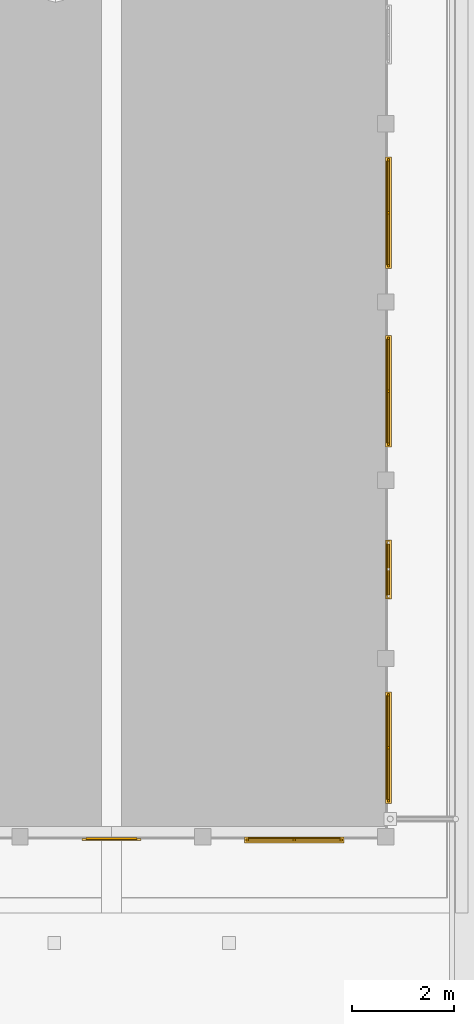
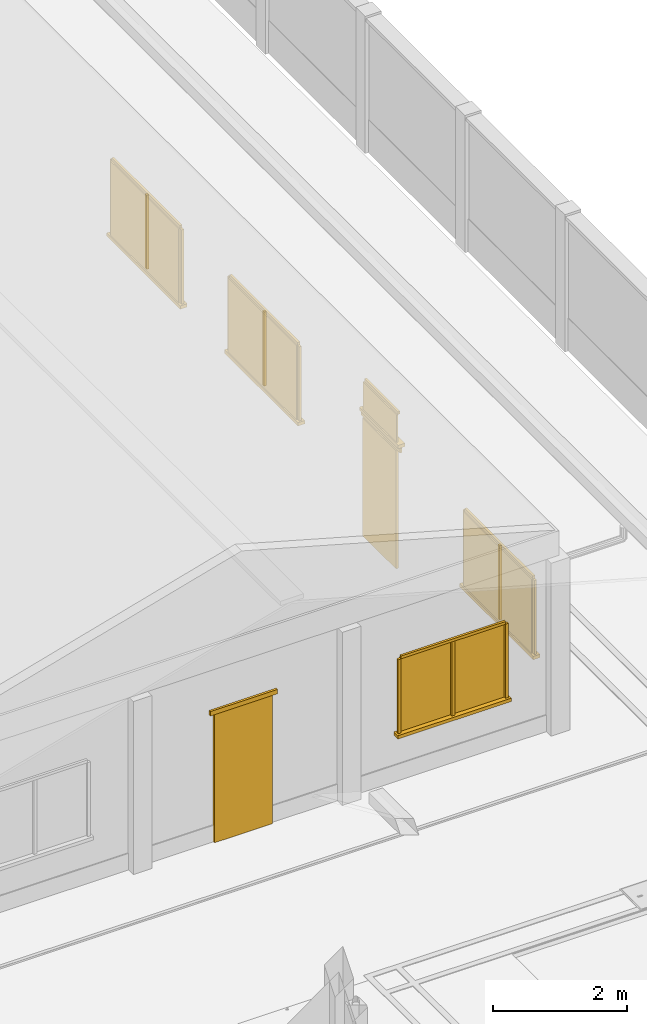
# One storey, part 71 of 177: 27 windows, 4 doors.
"""IFC4 building model written with IfcOpenShell, lengths in metres."""

from ifc_helpers import new_model, si_unit, origin, origin_with_axes, place, context, subcontext, project, spatial, triangles, element, save


model = new_model("IFC4")

# Units and contexts
model_context = context("Model", 3, precision=1e-05, world=origin_with_axes())
body_context = subcontext(model_context, "Body", "Model", "MODEL_VIEW")
ifc_project = project(units=[si_unit("LENGTHUNIT", "METRE"), si_unit("AREAUNIT", "SQUARE_METRE"), si_unit("VOLUMEUNIT", "CUBIC_METRE"), si_unit("PLANEANGLEUNIT", "RADIAN")], contexts=[model_context])

# Site, building, storey
site_placement = place(None, origin_with_axes())
site = spatial("IfcSite", under=ifc_project, at=site_placement, Name="Predio Los Mangos - Morales, San Martín", CompositionType="ELEMENT")
building_placement = place(site_placement, origin())
building = spatial("IfcBuilding", under=site, at=building_placement, Name="Hogar de Refugio Temporal", CompositionType="ELEMENT")
storey_placement = place(building_placement, origin())
storey = spatial("IfcBuildingStorey", under=building, at=storey_placement, Name="NIVEL 1 (NPT +0.00)", CompositionType="ELEMENT", Elevation=0.0)

# Doors
door_1_placement = place(storey_placement, origin())
element("IfcDoor", 1, at=door_1_placement, inside=storey, Name="E-07_pp", ObjectType="Puerta", PredefinedType="DOOR", context=body_context, shape_type="Tessellation", body=[
    triangles([(60.6, 92.65, 0.15), (61.6, 92.65, 0.15), (61.6, 92.69, 0.15), (60.6, 92.69, 0.15), (60.6, 92.65, 2.5), (61.6, 92.65, 2.5), (61.6, 92.69, 2.5), (60.6, 92.69, 2.5)], [[1, 4, 3], [1, 3, 2], [5, 6, 7], [5, 7, 8], [1, 2, 6], [1, 6, 5], [2, 3, 7], [2, 7, 6], [3, 4, 8], [3, 8, 7], [4, 1, 5], [4, 5, 8]]),
])
door_2_placement = place(storey_placement, origin())
element("IfcDoor", 2, at=door_2_placement, inside=storey, Name="E-07_pp_marco", ObjectType="Puerta", PredefinedType="DOOR", context=body_context, shape_type="Tessellation", body=[
    triangles([(60.52, 92.63, 2.5), (61.68, 92.63, 2.5), (61.68, 92.67, 2.5), (60.52, 92.67, 2.5), (60.52, 92.63, 2.58), (61.68, 92.63, 2.58), (61.68, 92.67, 2.58), (60.52, 92.67, 2.58)], [[1, 4, 3], [1, 3, 2], [5, 6, 7], [5, 7, 8], [1, 2, 6], [1, 6, 5], [2, 3, 7], [2, 7, 6], [3, 4, 8], [3, 8, 7], [4, 1, 5], [4, 5, 8]]),
])

# Windows
window_1_placement = place(storey_placement, origin())
element("IfcWindow", 3, at=window_1_placement, inside=storey, Name="E-07_vg2_vid", ObjectType="Ventana", PredefinedType="WINDOW", context=body_context, shape_type="Tessellation", body=[
    triangles([(63.8, 92.66, 1.05), (65.6, 92.66, 1.05), (65.6, 92.68, 1.05), (63.8, 92.68, 1.05), (63.8, 92.66, 2.4), (65.6, 92.66, 2.4), (65.6, 92.68, 2.4), (63.8, 92.68, 2.4)], [[1, 4, 3], [1, 3, 2], [5, 6, 7], [5, 7, 8], [1, 2, 6], [1, 6, 5], [2, 3, 7], [2, 7, 6], [3, 4, 8], [3, 8, 7], [4, 1, 5], [4, 5, 8]]),
])
window_2_placement = place(storey_placement, origin())
element("IfcWindow", 4, at=window_2_placement, inside=storey, Name="E-07_vg2_m", ObjectType="Ventana", PredefinedType="WINDOW", context=body_context, shape_type="Tessellation", body=[
    triangles([(63.75, 92.62, 1.05), (63.8, 92.62, 1.05), (63.8, 92.66, 1.05), (63.75, 92.66, 1.05), (63.75, 92.62, 2.4), (63.8, 92.62, 2.4), (63.8, 92.66, 2.4), (63.75, 92.66, 2.4)], [[1, 4, 3], [1, 3, 2], [5, 6, 7], [5, 7, 8], [1, 2, 6], [1, 6, 5], [2, 3, 7], [2, 7, 6], [3, 4, 8], [3, 8, 7], [4, 1, 5], [4, 5, 8]]),
])
window_3_placement = place(storey_placement, origin())
element("IfcWindow", 5, at=window_3_placement, inside=storey, Name="E-07_vg2_m", ObjectType="Ventana", PredefinedType="WINDOW", context=body_context, shape_type="Tessellation", body=[
    triangles([(65.6, 92.62, 1.05), (65.65, 92.62, 1.05), (65.65, 92.66, 1.05), (65.6, 92.66, 1.05), (65.6, 92.62, 2.4), (65.65, 92.62, 2.4), (65.65, 92.66, 2.4), (65.6, 92.66, 2.4)], [[1, 4, 3], [1, 3, 2], [5, 6, 7], [5, 7, 8], [1, 2, 6], [1, 6, 5], [2, 3, 7], [2, 7, 6], [3, 4, 8], [3, 8, 7], [4, 1, 5], [4, 5, 8]]),
])
window_4_placement = place(storey_placement, origin())
element("IfcWindow", 6, at=window_4_placement, inside=storey, Name="E-07_vg2_m", ObjectType="Ventana", PredefinedType="WINDOW", context=body_context, shape_type="Tessellation", body=[
    triangles([(63.8, 92.62, 2.4), (65.6, 92.62, 2.4), (65.6, 92.66, 2.4), (63.8, 92.66, 2.4), (63.8, 92.62, 2.45), (65.6, 92.62, 2.45), (65.6, 92.66, 2.45), (63.8, 92.66, 2.45)], [[1, 4, 3], [1, 3, 2], [5, 6, 7], [5, 7, 8], [1, 2, 6], [1, 6, 5], [2, 3, 7], [2, 7, 6], [3, 4, 8], [3, 8, 7], [4, 1, 5], [4, 5, 8]]),
])
window_5_placement = place(storey_placement, origin())
element("IfcWindow", 7, at=window_5_placement, inside=storey, Name="E-07_vg2_m", ObjectType="Ventana", PredefinedType="WINDOW", context=body_context, shape_type="Tessellation", body=[
    triangles([(64.675, 92.62, 1.05), (64.725, 92.62, 1.05), (64.725, 92.66, 1.05), (64.675, 92.66, 1.05), (64.675, 92.62, 2.4), (64.725, 92.62, 2.4), (64.725, 92.66, 2.4), (64.675, 92.66, 2.4)], [[1, 4, 3], [1, 3, 2], [5, 6, 7], [5, 7, 8], [1, 2, 6], [1, 6, 5], [2, 3, 7], [2, 7, 6], [3, 4, 8], [3, 8, 7], [4, 1, 5], [4, 5, 8]]),
])
window_6_placement = place(storey_placement, origin())
element("IfcWindow", 8, at=window_6_placement, inside=storey, Name="E-07_vg2_alf", ObjectType="Ventana", PredefinedType="WINDOW", context=body_context, shape_type="Tessellation", body=[
    triangles([(63.72, 92.7, 0.99), (65.68, 92.7, 0.99), (65.68, 92.58, 0.99), (63.72, 92.58, 0.99), (63.72, 92.7, 1.05), (65.68, 92.7, 1.05), (65.68, 92.58, 1.05), (63.72, 92.58, 1.05)], [[1, 4, 3], [1, 3, 2], [5, 6, 7], [5, 7, 8], [1, 2, 6], [1, 6, 5], [2, 3, 7], [2, 7, 6], [3, 4, 8], [3, 8, 7], [4, 1, 5], [4, 5, 8]]),
])
window_7_placement = place(storey_placement, origin())
element("IfcWindow", 9, at=window_7_placement, inside=storey, Name="E-07_v0_vid", ObjectType="Ventana", PredefinedType="WINDOW", context=body_context, shape_type="Tessellation", body=[
    triangles([(66.52, 93.4371, 1.05), (66.54, 93.4371, 1.05), (66.54, 95.4729, 1.05), (66.52, 95.4729, 1.05), (66.52, 93.4371, 2.4), (66.54, 93.4371, 2.4), (66.54, 95.4729, 2.4), (66.52, 95.4729, 2.4)], [[1, 4, 3], [1, 3, 2], [5, 6, 7], [5, 7, 8], [1, 2, 6], [1, 6, 5], [2, 3, 7], [2, 7, 6], [3, 4, 8], [3, 8, 7], [4, 1, 5], [4, 5, 8]]),
])
window_8_placement = place(storey_placement, origin())
element("IfcWindow", 10, at=window_8_placement, inside=storey, Name="E-07_v0_m", ObjectType="Ventana", PredefinedType="WINDOW", context=body_context, shape_type="Tessellation", body=[
    triangles([(66.54, 93.3871, 1.05), (66.58, 93.3871, 1.05), (66.58, 93.4371, 1.05), (66.54, 93.4371, 1.05), (66.54, 93.3871, 2.4), (66.58, 93.3871, 2.4), (66.58, 93.4371, 2.4), (66.54, 93.4371, 2.4)], [[1, 4, 3], [1, 3, 2], [5, 6, 7], [5, 7, 8], [1, 2, 6], [1, 6, 5], [2, 3, 7], [2, 7, 6], [3, 4, 8], [3, 8, 7], [4, 1, 5], [4, 5, 8]]),
])
window_9_placement = place(storey_placement, origin())
element("IfcWindow", 11, at=window_9_placement, inside=storey, Name="E-07_v0_m", ObjectType="Ventana", PredefinedType="WINDOW", context=body_context, shape_type="Tessellation", body=[
    triangles([(66.54, 95.4729, 1.05), (66.58, 95.4729, 1.05), (66.58, 95.5229, 1.05), (66.54, 95.5229, 1.05), (66.54, 95.4729, 2.4), (66.58, 95.4729, 2.4), (66.58, 95.5229, 2.4), (66.54, 95.5229, 2.4)], [[1, 4, 3], [1, 3, 2], [5, 6, 7], [5, 7, 8], [1, 2, 6], [1, 6, 5], [2, 3, 7], [2, 7, 6], [3, 4, 8], [3, 8, 7], [4, 1, 5], [4, 5, 8]]),
])
window_10_placement = place(storey_placement, origin())
element("IfcWindow", 12, at=window_10_placement, inside=storey, Name="E-07_v0_m", ObjectType="Ventana", PredefinedType="WINDOW", context=body_context, shape_type="Tessellation", body=[
    triangles([(66.54, 93.4371, 2.4), (66.58, 93.4371, 2.4), (66.58, 95.4729, 2.4), (66.54, 95.4729, 2.4), (66.54, 93.4371, 2.45), (66.58, 93.4371, 2.45), (66.58, 95.4729, 2.45), (66.54, 95.4729, 2.45)], [[1, 4, 3], [1, 3, 2], [5, 6, 7], [5, 7, 8], [1, 2, 6], [1, 6, 5], [2, 3, 7], [2, 7, 6], [3, 4, 8], [3, 8, 7], [4, 1, 5], [4, 5, 8]]),
])
window_11_placement = place(storey_placement, origin())
element("IfcWindow", 13, at=window_11_placement, inside=storey, Name="E-07_v0_m", ObjectType="Ventana", PredefinedType="WINDOW", context=body_context, shape_type="Tessellation", body=[
    triangles([(66.54, 94.43, 1.05), (66.58, 94.43, 1.05), (66.58, 94.48, 1.05), (66.54, 94.48, 1.05), (66.54, 94.43, 2.4), (66.58, 94.43, 2.4), (66.58, 94.48, 2.4), (66.54, 94.48, 2.4)], [[1, 4, 3], [1, 3, 2], [5, 6, 7], [5, 7, 8], [1, 2, 6], [1, 6, 5], [2, 3, 7], [2, 7, 6], [3, 4, 8], [3, 8, 7], [4, 1, 5], [4, 5, 8]]),
])
window_12_placement = place(storey_placement, origin())
element("IfcWindow", 14, at=window_12_placement, inside=storey, Name="E-07_v0_alf", ObjectType="Ventana", PredefinedType="WINDOW", context=body_context, shape_type="Tessellation", body=[
    triangles([(66.5, 93.3571, 0.99), (66.62, 93.3571, 0.99), (66.62, 95.5529, 0.99), (66.5, 95.5529, 0.99), (66.5, 93.3571, 1.05), (66.62, 93.3571, 1.05), (66.62, 95.5529, 1.05), (66.5, 95.5529, 1.05)], [[1, 4, 3], [1, 3, 2], [5, 6, 7], [5, 7, 8], [1, 2, 6], [1, 6, 5], [2, 3, 7], [2, 7, 6], [3, 4, 8], [3, 8, 7], [4, 1, 5], [4, 5, 8]]),
])

# Doors
door_3_placement = place(storey_placement, origin())
element("IfcDoor", 15, at=door_3_placement, inside=storey, Name="E-07_p1", ObjectType="Puerta", PredefinedType="DOOR", context=body_context, shape_type="Tessellation", body=[
    triangles([(66.51, 97.465, 0.15), (66.55, 97.465, 0.15), (66.55, 98.465, 0.15), (66.51, 98.465, 0.15), (66.51, 97.465, 2.3), (66.55, 97.465, 2.3), (66.55, 98.465, 2.3), (66.51, 98.465, 2.3)], [[1, 4, 3], [1, 3, 2], [5, 6, 7], [5, 7, 8], [1, 2, 6], [1, 6, 5], [2, 3, 7], [2, 7, 6], [3, 4, 8], [3, 8, 7], [4, 1, 5], [4, 5, 8]]),
])
door_4_placement = place(storey_placement, origin())
element("IfcDoor", 16, at=door_4_placement, inside=storey, Name="E-07_p1_marco", ObjectType="Puerta", PredefinedType="DOOR", context=body_context, shape_type="Tessellation", body=[
    triangles([(66.53, 97.385, 2.3), (66.57, 97.385, 2.3), (66.57, 98.545, 2.3), (66.53, 98.545, 2.3), (66.53, 97.385, 2.38), (66.57, 97.385, 2.38), (66.57, 98.545, 2.38), (66.53, 98.545, 2.38)], [[1, 4, 3], [1, 3, 2], [5, 6, 7], [5, 7, 8], [1, 2, 6], [1, 6, 5], [2, 3, 7], [2, 7, 6], [3, 4, 8], [3, 8, 7], [4, 1, 5], [4, 5, 8]]),
])

# Windows
window_13_placement = place(storey_placement, origin())
element("IfcWindow", 17, at=window_13_placement, inside=storey, Name="E-07_vt1_vid", ObjectType="Ventana", PredefinedType="WINDOW", context=body_context, shape_type="Tessellation", body=[
    triangles([(66.52, 97.465, 2.45), (66.54, 97.465, 2.45), (66.54, 98.465, 2.45), (66.52, 98.465, 2.45), (66.52, 97.465, 2.95), (66.54, 97.465, 2.95), (66.54, 98.465, 2.95), (66.52, 98.465, 2.95)], [[1, 4, 3], [1, 3, 2], [5, 6, 7], [5, 7, 8], [1, 2, 6], [1, 6, 5], [2, 3, 7], [2, 7, 6], [3, 4, 8], [3, 8, 7], [4, 1, 5], [4, 5, 8]]),
])
window_14_placement = place(storey_placement, origin())
element("IfcWindow", 18, at=window_14_placement, inside=storey, Name="E-07_vt1_m", ObjectType="Ventana", PredefinedType="WINDOW", context=body_context, shape_type="Tessellation", body=[
    triangles([(66.54, 97.465, 2.95), (66.58, 97.465, 2.95), (66.58, 98.465, 2.95), (66.54, 98.465, 2.95), (66.54, 97.465, 3.0), (66.58, 97.465, 3.0), (66.58, 98.465, 3.0), (66.54, 98.465, 3.0)], [[1, 4, 3], [1, 3, 2], [5, 6, 7], [5, 7, 8], [1, 2, 6], [1, 6, 5], [2, 3, 7], [2, 7, 6], [3, 4, 8], [3, 8, 7], [4, 1, 5], [4, 5, 8]]),
])
window_15_placement = place(storey_placement, origin())
element("IfcWindow", 19, at=window_15_placement, inside=storey, Name="E-07_vt1_alf", ObjectType="Ventana", PredefinedType="WINDOW", context=body_context, shape_type="Tessellation", body=[
    triangles([(66.5, 97.385, 2.39), (66.62, 97.385, 2.39), (66.62, 98.545, 2.39), (66.5, 98.545, 2.39), (66.5, 97.385, 2.45), (66.62, 97.385, 2.45), (66.62, 98.545, 2.45), (66.5, 98.545, 2.45)], [[1, 4, 3], [1, 3, 2], [5, 6, 7], [5, 7, 8], [1, 2, 6], [1, 6, 5], [2, 3, 7], [2, 7, 6], [3, 4, 8], [3, 8, 7], [4, 1, 5], [4, 5, 8]]),
])
window_16_placement = place(storey_placement, origin())
element("IfcWindow", 20, at=window_16_placement, inside=storey, Name="E-07_v2_vid", ObjectType="Ventana", PredefinedType="WINDOW", context=body_context, shape_type="Tessellation", body=[
    triangles([(66.52, 100.4571, 1.05), (66.54, 100.4571, 1.05), (66.54, 102.4929, 1.05), (66.52, 102.4929, 1.05), (66.52, 100.4571, 2.4), (66.54, 100.4571, 2.4), (66.54, 102.4929, 2.4), (66.52, 102.4929, 2.4)], [[1, 4, 3], [1, 3, 2], [5, 6, 7], [5, 7, 8], [1, 2, 6], [1, 6, 5], [2, 3, 7], [2, 7, 6], [3, 4, 8], [3, 8, 7], [4, 1, 5], [4, 5, 8]]),
])
window_17_placement = place(storey_placement, origin())
element("IfcWindow", 21, at=window_17_placement, inside=storey, Name="E-07_v2_m", ObjectType="Ventana", PredefinedType="WINDOW", context=body_context, shape_type="Tessellation", body=[
    triangles([(66.54, 100.4071, 1.05), (66.58, 100.4071, 1.05), (66.58, 100.4571, 1.05), (66.54, 100.4571, 1.05), (66.54, 100.4071, 2.4), (66.58, 100.4071, 2.4), (66.58, 100.4571, 2.4), (66.54, 100.4571, 2.4)], [[1, 4, 3], [1, 3, 2], [5, 6, 7], [5, 7, 8], [1, 2, 6], [1, 6, 5], [2, 3, 7], [2, 7, 6], [3, 4, 8], [3, 8, 7], [4, 1, 5], [4, 5, 8]]),
])
window_18_placement = place(storey_placement, origin())
element("IfcWindow", 22, at=window_18_placement, inside=storey, Name="E-07_v2_m", ObjectType="Ventana", PredefinedType="WINDOW", context=body_context, shape_type="Tessellation", body=[
    triangles([(66.54, 102.4929, 1.05), (66.58, 102.4929, 1.05), (66.58, 102.5429, 1.05), (66.54, 102.5429, 1.05), (66.54, 102.4929, 2.4), (66.58, 102.4929, 2.4), (66.58, 102.5429, 2.4), (66.54, 102.5429, 2.4)], [[1, 4, 3], [1, 3, 2], [5, 6, 7], [5, 7, 8], [1, 2, 6], [1, 6, 5], [2, 3, 7], [2, 7, 6], [3, 4, 8], [3, 8, 7], [4, 1, 5], [4, 5, 8]]),
])
window_19_placement = place(storey_placement, origin())
element("IfcWindow", 23, at=window_19_placement, inside=storey, Name="E-07_v2_m", ObjectType="Ventana", PredefinedType="WINDOW", context=body_context, shape_type="Tessellation", body=[
    triangles([(66.54, 100.4571, 2.4), (66.58, 100.4571, 2.4), (66.58, 102.4929, 2.4), (66.54, 102.4929, 2.4), (66.54, 100.4571, 2.45), (66.58, 100.4571, 2.45), (66.58, 102.4929, 2.45), (66.54, 102.4929, 2.45)], [[1, 4, 3], [1, 3, 2], [5, 6, 7], [5, 7, 8], [1, 2, 6], [1, 6, 5], [2, 3, 7], [2, 7, 6], [3, 4, 8], [3, 8, 7], [4, 1, 5], [4, 5, 8]]),
])
window_20_placement = place(storey_placement, origin())
element("IfcWindow", 24, at=window_20_placement, inside=storey, Name="E-07_v2_m", ObjectType="Ventana", PredefinedType="WINDOW", context=body_context, shape_type="Tessellation", body=[
    triangles([(66.54, 101.45, 1.05), (66.58, 101.45, 1.05), (66.58, 101.5, 1.05), (66.54, 101.5, 1.05), (66.54, 101.45, 2.4), (66.58, 101.45, 2.4), (66.58, 101.5, 2.4), (66.54, 101.5, 2.4)], [[1, 4, 3], [1, 3, 2], [5, 6, 7], [5, 7, 8], [1, 2, 6], [1, 6, 5], [2, 3, 7], [2, 7, 6], [3, 4, 8], [3, 8, 7], [4, 1, 5], [4, 5, 8]]),
])
window_21_placement = place(storey_placement, origin())
element("IfcWindow", 25, at=window_21_placement, inside=storey, Name="E-07_v2_alf", ObjectType="Ventana", PredefinedType="WINDOW", context=body_context, shape_type="Tessellation", body=[
    triangles([(66.5, 100.3771, 0.99), (66.62, 100.3771, 0.99), (66.62, 102.5729, 0.99), (66.5, 102.5729, 0.99), (66.5, 100.3771, 1.05), (66.62, 100.3771, 1.05), (66.62, 102.5729, 1.05), (66.5, 102.5729, 1.05)], [[1, 4, 3], [1, 3, 2], [5, 6, 7], [5, 7, 8], [1, 2, 6], [1, 6, 5], [2, 3, 7], [2, 7, 6], [3, 4, 8], [3, 8, 7], [4, 1, 5], [4, 5, 8]]),
])
window_22_placement = place(storey_placement, origin())
element("IfcWindow", 26, at=window_22_placement, inside=storey, Name="E-07_v3_vid", ObjectType="Ventana", PredefinedType="WINDOW", context=body_context, shape_type="Tessellation", body=[
    triangles([(66.52, 103.9671, 1.05), (66.54, 103.9671, 1.05), (66.54, 106.0029, 1.05), (66.52, 106.0029, 1.05), (66.52, 103.9671, 2.4), (66.54, 103.9671, 2.4), (66.54, 106.0029, 2.4), (66.52, 106.0029, 2.4)], [[1, 4, 3], [1, 3, 2], [5, 6, 7], [5, 7, 8], [1, 2, 6], [1, 6, 5], [2, 3, 7], [2, 7, 6], [3, 4, 8], [3, 8, 7], [4, 1, 5], [4, 5, 8]]),
])
window_23_placement = place(storey_placement, origin())
element("IfcWindow", 27, at=window_23_placement, inside=storey, Name="E-07_v3_m", ObjectType="Ventana", PredefinedType="WINDOW", context=body_context, shape_type="Tessellation", body=[
    triangles([(66.54, 103.9171, 1.05), (66.58, 103.9171, 1.05), (66.58, 103.9671, 1.05), (66.54, 103.9671, 1.05), (66.54, 103.9171, 2.4), (66.58, 103.9171, 2.4), (66.58, 103.9671, 2.4), (66.54, 103.9671, 2.4)], [[1, 4, 3], [1, 3, 2], [5, 6, 7], [5, 7, 8], [1, 2, 6], [1, 6, 5], [2, 3, 7], [2, 7, 6], [3, 4, 8], [3, 8, 7], [4, 1, 5], [4, 5, 8]]),
])
window_24_placement = place(storey_placement, origin())
element("IfcWindow", 28, at=window_24_placement, inside=storey, Name="E-07_v3_m", ObjectType="Ventana", PredefinedType="WINDOW", context=body_context, shape_type="Tessellation", body=[
    triangles([(66.54, 106.0029, 1.05), (66.58, 106.0029, 1.05), (66.58, 106.0529, 1.05), (66.54, 106.0529, 1.05), (66.54, 106.0029, 2.4), (66.58, 106.0029, 2.4), (66.58, 106.0529, 2.4), (66.54, 106.0529, 2.4)], [[1, 4, 3], [1, 3, 2], [5, 6, 7], [5, 7, 8], [1, 2, 6], [1, 6, 5], [2, 3, 7], [2, 7, 6], [3, 4, 8], [3, 8, 7], [4, 1, 5], [4, 5, 8]]),
])
window_25_placement = place(storey_placement, origin())
element("IfcWindow", 29, at=window_25_placement, inside=storey, Name="E-07_v3_m", ObjectType="Ventana", PredefinedType="WINDOW", context=body_context, shape_type="Tessellation", body=[
    triangles([(66.54, 103.9671, 2.4), (66.58, 103.9671, 2.4), (66.58, 106.0029, 2.4), (66.54, 106.0029, 2.4), (66.54, 103.9671, 2.45), (66.58, 103.9671, 2.45), (66.58, 106.0029, 2.45), (66.54, 106.0029, 2.45)], [[1, 4, 3], [1, 3, 2], [5, 6, 7], [5, 7, 8], [1, 2, 6], [1, 6, 5], [2, 3, 7], [2, 7, 6], [3, 4, 8], [3, 8, 7], [4, 1, 5], [4, 5, 8]]),
])
window_26_placement = place(storey_placement, origin())
element("IfcWindow", 30, at=window_26_placement, inside=storey, Name="E-07_v3_m", ObjectType="Ventana", PredefinedType="WINDOW", context=body_context, shape_type="Tessellation", body=[
    triangles([(66.54, 104.96, 1.05), (66.58, 104.96, 1.05), (66.58, 105.01, 1.05), (66.54, 105.01, 1.05), (66.54, 104.96, 2.4), (66.58, 104.96, 2.4), (66.58, 105.01, 2.4), (66.54, 105.01, 2.4)], [[1, 4, 3], [1, 3, 2], [5, 6, 7], [5, 7, 8], [1, 2, 6], [1, 6, 5], [2, 3, 7], [2, 7, 6], [3, 4, 8], [3, 8, 7], [4, 1, 5], [4, 5, 8]]),
])
window_27_placement = place(storey_placement, origin())
element("IfcWindow", 31, at=window_27_placement, inside=storey, Name="E-07_v3_alf", ObjectType="Ventana", PredefinedType="WINDOW", context=body_context, shape_type="Tessellation", body=[
    triangles([(66.5, 103.8871, 0.99), (66.62, 103.8871, 0.99), (66.62, 106.0829, 0.99), (66.5, 106.0829, 0.99), (66.5, 103.8871, 1.05), (66.62, 103.8871, 1.05), (66.62, 106.0829, 1.05), (66.5, 106.0829, 1.05)], [[1, 4, 3], [1, 3, 2], [5, 6, 7], [5, 7, 8], [1, 2, 6], [1, 6, 5], [2, 3, 7], [2, 7, 6], [3, 4, 8], [3, 8, 7], [4, 1, 5], [4, 5, 8]]),
])

save(model, "model.ifc")
